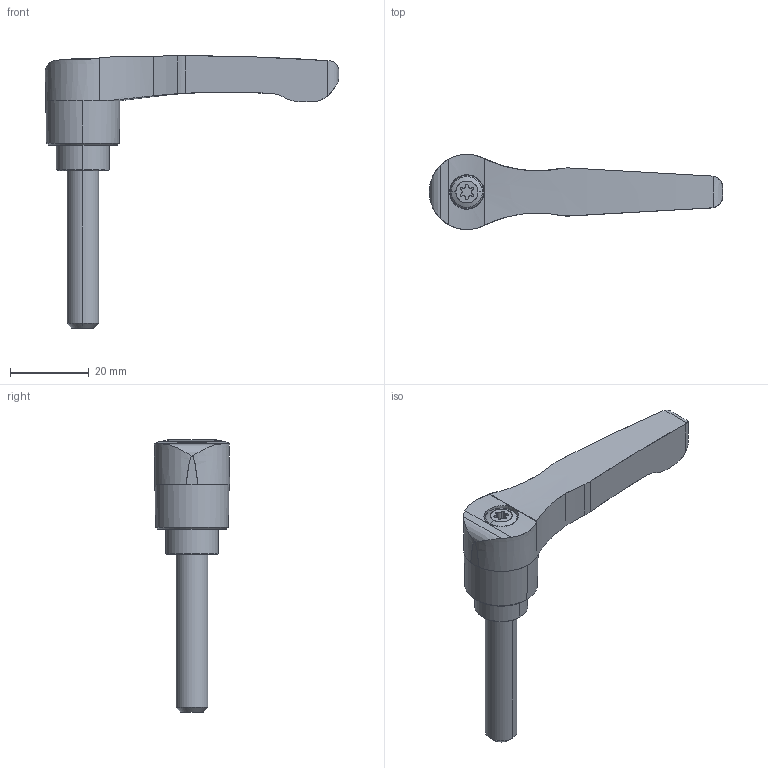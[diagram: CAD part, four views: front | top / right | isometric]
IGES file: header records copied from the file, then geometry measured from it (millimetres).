
Start section: SolidWorks IGES file using analytic representation for surfaces
Global section: file name: X:\11_SW2020-Inv2020\00_全2021-11新製品まで\h\HKR8X40-OG-SUS\hkr8x40-og-sus.IGS; native system: SolidWorks 2020; preprocessor: SolidWorks 2020; author: ImaoCorp; date: 211026.101439; units: millimetre
Bounding box: 74.55 x 19.1 x 69.2 mm (x, y, z)
Surface area: 5474.6 mm2 (no closed solid volume)
Topology: 0 solids, 0 shells, 77 faces, 1089 edges, 1089 vertices
Faces by surface type: revolution 51, bspline 26
